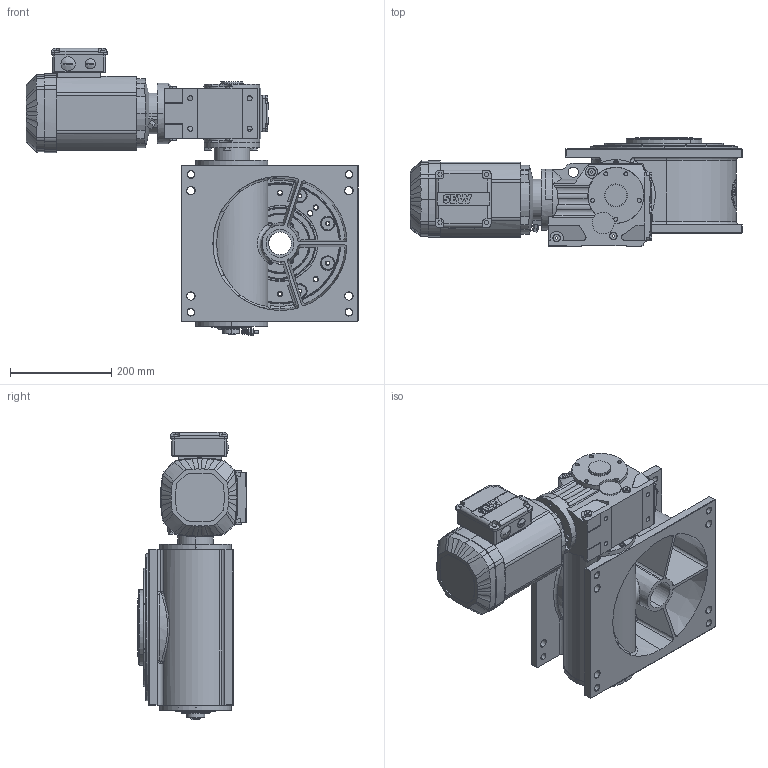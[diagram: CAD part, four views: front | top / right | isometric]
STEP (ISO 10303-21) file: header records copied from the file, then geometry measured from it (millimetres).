
FILE_DESCRIPTION (( 'STEP AP214' ), '1' );
FILE_NAME ('M235_SEW_KA37DRE80M4_D3_08.STEP', '2020-06-17T05:00:36', ( '' ), ( '' ), 'SwSTEP 2.0', 'SolidWorks 2020', '' );
FILE_SCHEMA (( 'AUTOMOTIVE_DESIGN' ));
Length unit declared in the file: millimetre
Products named in the file (1): M235_SEW_KA37DRE80M4_D3_08
Bounding box: 655.5 x 214 x 567.22 mm (x, y, z)
Surface area: 1115218 mm2 (no closed solid volume)
Topology: 0 solids, 86 shells, 1729 faces, 5186 edges, 3434 vertices
Faces by surface type: plane 670, cylinder 574, cone 267, bspline 126, torus 76, sphere 16
Entity records: 87785 total; most frequent: CARTESIAN_POINT 23346, DIRECTION 9486, ORIENTED_EDGE 8861, EDGE_CURVE 5138, AXIS2_PLACEMENT_3D 3440, VERTEX_POINT 3434, LINE 2606, VECTOR 2606
